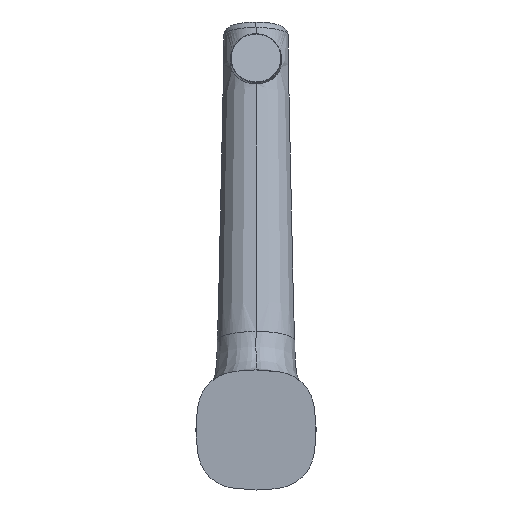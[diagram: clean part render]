
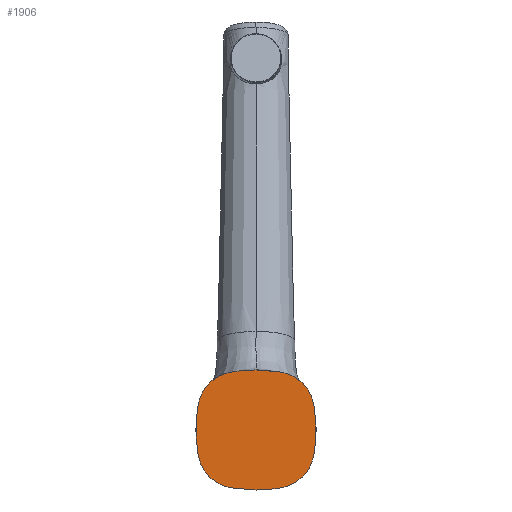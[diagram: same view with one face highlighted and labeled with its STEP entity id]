
A CAD part, front view. The second image highlights one B-rep face of the part: STEP entity #1906.
In plain terms, the highlighted planar face has unit normal (0, -1, 0).
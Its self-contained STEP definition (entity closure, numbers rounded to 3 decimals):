
#106 = CARTESIAN_POINT ( 'NONE',  ( -3.363, -0.104, 24.187 ) ) ;
#108 = CARTESIAN_POINT ( 'NONE',  ( 23.429, -0.104, 10.05 ) ) ;
#109 = EDGE_CURVE ( 'NONE', #1212, #4585, #2105, .T. ) ;
#131 = CARTESIAN_POINT ( 'NONE',  ( 6.709, -0.104, -23.886 ) ) ;
#243 = CARTESIAN_POINT ( 'NONE',  ( -6.706, -0.104, 23.886 ) ) ;
#254 = CARTESIAN_POINT ( 'NONE',  ( 0., -0.104, -24.25 ) ) ;
#550 = CARTESIAN_POINT ( 'NONE',  ( 24.185, -0.104, 3.368 ) ) ;
#571 = CARTESIAN_POINT ( 'NONE',  ( 1.122, -0.104, -24.25 ) ) ;
#740 = DIRECTION ( 'NONE',  ( 0., 1., 0. ) ) ;
#973 = CARTESIAN_POINT ( 'NONE',  ( -22.633, -0.104, 13.314 ) ) ;
#977 = CARTESIAN_POINT ( 'NONE',  ( 1.122, -0.104, 24.25 ) ) ;
#997 = CARTESIAN_POINT ( 'NONE',  ( -22.632, -0.104, -13.318 ) ) ;
#1004 = CARTESIAN_POINT ( 'NONE',  ( 24.185, -0.104, -3.364 ) ) ;
#1073 = FACE_OUTER_BOUND ( 'NONE', #2534, .T. ) ;
#1110 = AXIS2_PLACEMENT_3D ( 'NONE', #2730, #740, #4226 ) ;
#1212 = VERTEX_POINT ( 'NONE', #254 ) ;
#1241 = CARTESIAN_POINT ( 'NONE',  ( -1.122, -0.104, -24.25 ) ) ;
#1385 = CARTESIAN_POINT ( 'NONE',  ( -23.884, -0.104, 6.71 ) ) ;
#1409 = CARTESIAN_POINT ( 'NONE',  ( 6.706, -0.104, 23.886 ) ) ;
#1432 = CARTESIAN_POINT ( 'NONE',  ( 23.43, -0.104, -10.048 ) ) ;
#1852 = CARTESIAN_POINT ( 'NONE',  ( 13.317, -0.104, 22.633 ) ) ;
#1875 = CARTESIAN_POINT ( 'NONE',  ( 21.078, -0.104, -16.334 ) ) ;
#1906 = ADVANCED_FACE ( 'NONE', ( #1073 ), #2669, .F. ) ;
#2105 = B_SPLINE_CURVE_WITH_KNOTS ( 'NONE', 3,
 ( #5268, #1241, #5587, #3142, #2516, #3163, #4527, #5361, #4408, #997, #3586, #3360, #4688, #4513, #3237, #1385, #4426, #973, #5533, #5638, #5573, #5603, #5620, #243, #106, #3812, #2322 ),
 .UNSPECIFIED., .F., .F.,
 ( 4, 1, 1, 1, 1, 1, 1, 1, 1, 1, 1, 1, 1, 1, 1, 1, 1, 1, 1, 1, 1, 1, 1, 1, 4 ),
 ( 0., 0.042, 0.083, 0.125, 0.167, 0.208, 0.25, 0.292, 0.333, 0.375, 0.417, 0.458, 0.5, 0.542, 0.583, 0.625, 0.667, 0.708, 0.75, 0.792, 0.833, 0.875, 0.917, 0.958, 1. ),
 .UNSPECIFIED. ) ;
#2186 = CARTESIAN_POINT ( 'NONE',  ( 0., -0.104, 24.25 ) ) ;
#2305 = CARTESIAN_POINT ( 'NONE',  ( 18.955, -0.104, 18.963 ) ) ;
#2322 = CARTESIAN_POINT ( 'NONE',  ( 0., -0.104, 24.25 ) ) ;
#2327 = CARTESIAN_POINT ( 'NONE',  ( 16.334, -0.104, -21.079 ) ) ;
#2498 = ORIENTED_EDGE ( 'NONE', *, *, #2967, .F. ) ;
#2516 = CARTESIAN_POINT ( 'NONE',  ( -10.049, -0.104, -23.431 ) ) ;
#2534 = EDGE_LOOP ( 'NONE', ( #2498, #5590 ) ) ;
#2669 = PLANE ( 'NONE',  #1110 ) ;
#2730 = CARTESIAN_POINT ( 'NONE',  ( -0.926, -0.104, 54.996 ) ) ;
#2756 = CARTESIAN_POINT ( 'NONE',  ( 22.633, -0.104, 13.314 ) ) ;
#2776 = CARTESIAN_POINT ( 'NONE',  ( 10.049, -0.104, -23.431 ) ) ;
#2967 = EDGE_CURVE ( 'NONE', #4585, #1212, #3325, .T. ) ;
#3142 = CARTESIAN_POINT ( 'NONE',  ( -6.709, -0.104, -23.886 ) ) ;
#3163 = CARTESIAN_POINT ( 'NONE',  ( -13.313, -0.104, -22.634 ) ) ;
#3188 = CARTESIAN_POINT ( 'NONE',  ( 23.884, -0.104, 6.71 ) ) ;
#3208 = CARTESIAN_POINT ( 'NONE',  ( 3.367, -0.104, -24.186 ) ) ;
#3237 = CARTESIAN_POINT ( 'NONE',  ( -24.185, -0.104, 3.368 ) ) ;
#3325 = B_SPLINE_CURVE_WITH_KNOTS ( 'NONE', 3,
 ( #2186, #977, #4066, #1409, #4502, #1852, #4937, #2305, #5367, #2756, #108, #3188, #550, #3624, #1004, #4089, #1432, #4531, #1875, #4958, #2327, #5387, #2776, #131, #3208, #571, #3642 ),
 .UNSPECIFIED., .F., .F.,
 ( 4, 1, 1, 1, 1, 1, 1, 1, 1, 1, 1, 1, 1, 1, 1, 1, 1, 1, 1, 1, 1, 1, 1, 1, 4 ),
 ( 0., 0.042, 0.083, 0.125, 0.167, 0.208, 0.25, 0.292, 0.333, 0.375, 0.417, 0.458, 0.5, 0.542, 0.583, 0.625, 0.667, 0.708, 0.75, 0.792, 0.833, 0.875, 0.917, 0.958, 1. ),
 .UNSPECIFIED. ) ;
#3360 = CARTESIAN_POINT ( 'NONE',  ( -23.885, -0.104, -6.707 ) ) ;
#3586 = CARTESIAN_POINT ( 'NONE',  ( -23.43, -0.104, -10.048 ) ) ;
#3624 = CARTESIAN_POINT ( 'NONE',  ( 24.28, -0.104, -0.001 ) ) ;
#3642 = CARTESIAN_POINT ( 'NONE',  ( 0., -0.104, -24.25 ) ) ;
#3812 = CARTESIAN_POINT ( 'NONE',  ( -1.122, -0.104, 24.25 ) ) ;
#4066 = CARTESIAN_POINT ( 'NONE',  ( 3.363, -0.104, 24.187 ) ) ;
#4089 = CARTESIAN_POINT ( 'NONE',  ( 23.885, -0.104, -6.707 ) ) ;
#4226 = DIRECTION ( 'NONE',  ( 1., 0., 0. ) ) ;
#4408 = CARTESIAN_POINT ( 'NONE',  ( -21.078, -0.104, -16.334 ) ) ;
#4426 = CARTESIAN_POINT ( 'NONE',  ( -23.429, -0.104, 10.05 ) ) ;
#4502 = CARTESIAN_POINT ( 'NONE',  ( 10.046, -0.104, 23.431 ) ) ;
#4513 = CARTESIAN_POINT ( 'NONE',  ( -24.28, -0.104, -0.001 ) ) ;
#4527 = CARTESIAN_POINT ( 'NONE',  ( -16.334, -0.104, -21.079 ) ) ;
#4531 = CARTESIAN_POINT ( 'NONE',  ( 22.632, -0.104, -13.318 ) ) ;
#4585 = VERTEX_POINT ( 'NONE', #5220 ) ;
#4688 = CARTESIAN_POINT ( 'NONE',  ( -24.185, -0.104, -3.364 ) ) ;
#4937 = CARTESIAN_POINT ( 'NONE',  ( 16.332, -0.104, 21.08 ) ) ;
#4958 = CARTESIAN_POINT ( 'NONE',  ( 18.962, -0.104, -18.956 ) ) ;
#5220 = CARTESIAN_POINT ( 'NONE',  ( 0., -0.104, 24.25 ) ) ;
#5268 = CARTESIAN_POINT ( 'NONE',  ( 0., -0.104, -24.25 ) ) ;
#5361 = CARTESIAN_POINT ( 'NONE',  ( -18.962, -0.104, -18.956 ) ) ;
#5367 = CARTESIAN_POINT ( 'NONE',  ( 21.078, -0.104, 16.335 ) ) ;
#5387 = CARTESIAN_POINT ( 'NONE',  ( 13.313, -0.104, -22.634 ) ) ;
#5533 = CARTESIAN_POINT ( 'NONE',  ( -21.078, -0.104, 16.335 ) ) ;
#5573 = CARTESIAN_POINT ( 'NONE',  ( -16.332, -0.104, 21.08 ) ) ;
#5587 = CARTESIAN_POINT ( 'NONE',  ( -3.367, -0.104, -24.186 ) ) ;
#5590 = ORIENTED_EDGE ( 'NONE', *, *, #109, .F. ) ;
#5603 = CARTESIAN_POINT ( 'NONE',  ( -13.317, -0.104, 22.633 ) ) ;
#5620 = CARTESIAN_POINT ( 'NONE',  ( -10.046, -0.104, 23.431 ) ) ;
#5638 = CARTESIAN_POINT ( 'NONE',  ( -18.955, -0.104, 18.963 ) ) ;
